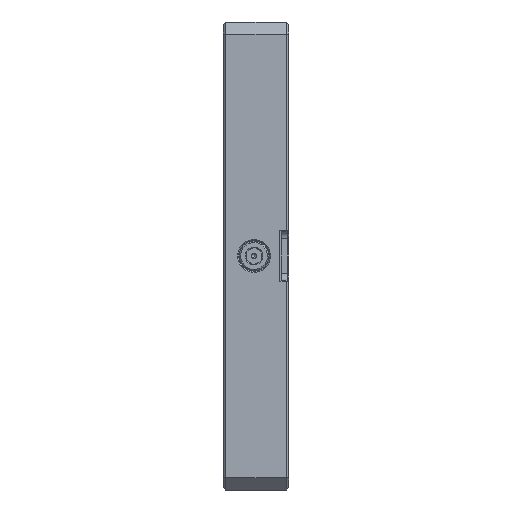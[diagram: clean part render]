
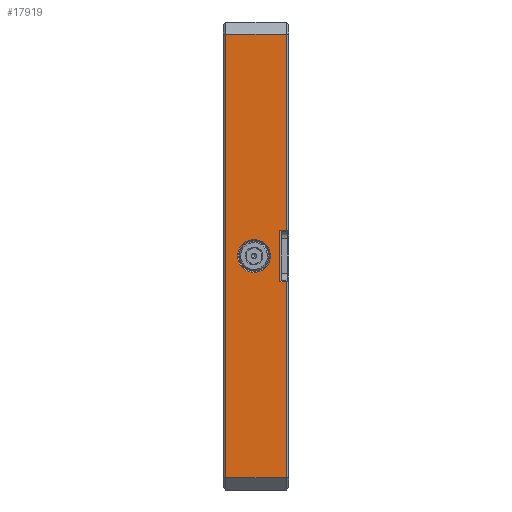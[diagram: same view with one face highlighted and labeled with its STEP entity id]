
A CAD part, left-side view. The second image highlights one B-rep face of the part: STEP entity #17919.
In plain terms, the highlighted planar face has unit normal (-1, 0, 0).
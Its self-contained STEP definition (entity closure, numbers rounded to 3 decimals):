
#11616=DIRECTION('',(0.,-1.,0.));
#11617=VECTOR('',#11616,25.);
#11618=CARTESIAN_POINT('',(-96.,26.,91.));
#11619=LINE('',#11618,#11617);
#11624=CARTESIAN_POINT('',(-96.,14.3,0.));
#11625=DIRECTION('',(1.,0.,0.));
#11626=DIRECTION('',(0.,0.,1.));
#11627=AXIS2_PLACEMENT_3D('',#11624,#11625,#11626);
#11629=CARTESIAN_POINT('',(-96.,14.3,0.));
#11630=DIRECTION('',(1.,0.,0.));
#11631=DIRECTION('',(0.,0.,-1.));
#11632=AXIS2_PLACEMENT_3D('',#11629,#11630,#11631);
#11638=DIRECTION('',(0.,0.,-1.));
#11639=VECTOR('',#11638,80.5);
#11640=CARTESIAN_POINT('',(-96.,1.,-10.5));
#11641=LINE('',#11640,#11639);
#11768=DIRECTION('',(0.,0.,-1.));
#11769=VECTOR('',#11768,80.5);
#11770=CARTESIAN_POINT('',(-96.,1.,91.));
#11771=LINE('',#11770,#11769);
#12030=DIRECTION('',(0.,0.,1.));
#12031=VECTOR('',#12030,182.);
#12032=CARTESIAN_POINT('',(-96.,26.,-91.));
#12033=LINE('',#12032,#12031);
#12046=DIRECTION('',(0.,1.,0.));
#12047=VECTOR('',#12046,25.);
#12048=CARTESIAN_POINT('',(-96.,1.,-91.));
#12049=LINE('',#12048,#12047);
#14132=DIRECTION('',(0.,1.,0.));
#14133=VECTOR('',#14132,2.7);
#14134=CARTESIAN_POINT('',(-96.,1.,10.5));
#14135=LINE('',#14134,#14133);
#14144=DIRECTION('',(0.,0.,-1.));
#14145=VECTOR('',#14144,21.);
#14146=CARTESIAN_POINT('',(-96.,3.7,10.5));
#14147=LINE('',#14146,#14145);
#14156=DIRECTION('',(0.,-1.,0.));
#14157=VECTOR('',#14156,2.7);
#14158=CARTESIAN_POINT('',(-96.,3.7,-10.5));
#14159=LINE('',#14158,#14157);
#16677=CARTESIAN_POINT('',(-96.,1.,10.5));
#16679=VERTEX_POINT('',#16677);
#17031=CARTESIAN_POINT('',(-96.,1.,91.));
#17033=VERTEX_POINT('',#17031);
#17081=CARTESIAN_POINT('',(-96.,26.,-91.));
#17083=VERTEX_POINT('',#17081);
#17278=CARTESIAN_POINT('',(-96.,14.3,6.8));
#17279=VERTEX_POINT('',#17278);
#17290=CARTESIAN_POINT('',(-96.,1.,-91.));
#17291=VERTEX_POINT('',#17290);
#17300=CARTESIAN_POINT('',(-96.,26.,91.));
#17301=VERTEX_POINT('',#17300);
#17537=CARTESIAN_POINT('',(-96.,3.7,10.5));
#17538=VERTEX_POINT('',#17537);
#17556=CARTESIAN_POINT('',(-96.,14.3,-6.8));
#17557=VERTEX_POINT('',#17556);
#17582=CARTESIAN_POINT('',(-96.,3.7,-10.5));
#17583=VERTEX_POINT('',#17582);
#17590=CARTESIAN_POINT('',(-96.,1.,-10.5));
#17591=VERTEX_POINT('',#17590);
#17891=CARTESIAN_POINT('',(-96.,27.,96.));
#17892=DIRECTION('',(1.,0.,0.));
#17893=DIRECTION('',(0.,0.,-1.));
#17894=AXIS2_PLACEMENT_3D('',#17891,#17892,#17893);
#17895=PLANE('',#17894);
#17897=ORIENTED_EDGE('',*,*,#17896,.T.);
#17899=ORIENTED_EDGE('',*,*,#17898,.T.);
#17901=ORIENTED_EDGE('',*,*,#17900,.T.);
#17902=ORIENTED_EDGE('',*,*,#17881,.T.);
#17904=ORIENTED_EDGE('',*,*,#17903,.T.);
#17906=ORIENTED_EDGE('',*,*,#17905,.T.);
#17908=ORIENTED_EDGE('',*,*,#17907,.T.);
#17910=ORIENTED_EDGE('',*,*,#17909,.T.);
#17911=EDGE_LOOP('',(#17897,#17899,#17901,#17902,#17904,#17906,#17908,#17910));
#17912=FACE_OUTER_BOUND('',#17911,.F.);
#17914=ORIENTED_EDGE('',*,*,#17913,.F.);
#17916=ORIENTED_EDGE('',*,*,#17915,.F.);
#17917=EDGE_LOOP('',(#17914,#17916));
#17918=FACE_BOUND('',#17917,.F.);
#17919=ADVANCED_FACE('',(#17912,#17918),#17895,.F.);
#11628=CIRCLE('',#11627,6.8);
#11633=CIRCLE('',#11632,6.8);
#17881=EDGE_CURVE('',#17301,#17033,#11619,.T.);
#17896=EDGE_CURVE('',#17591,#17291,#11641,.T.);
#17898=EDGE_CURVE('',#17291,#17083,#12049,.T.);
#17900=EDGE_CURVE('',#17083,#17301,#12033,.T.);
#17903=EDGE_CURVE('',#17033,#16679,#11771,.T.);
#17905=EDGE_CURVE('',#16679,#17538,#14135,.T.);
#17907=EDGE_CURVE('',#17538,#17583,#14147,.T.);
#17909=EDGE_CURVE('',#17583,#17591,#14159,.T.);
#17913=EDGE_CURVE('',#17279,#17557,#11628,.T.);
#17915=EDGE_CURVE('',#17557,#17279,#11633,.T.);
